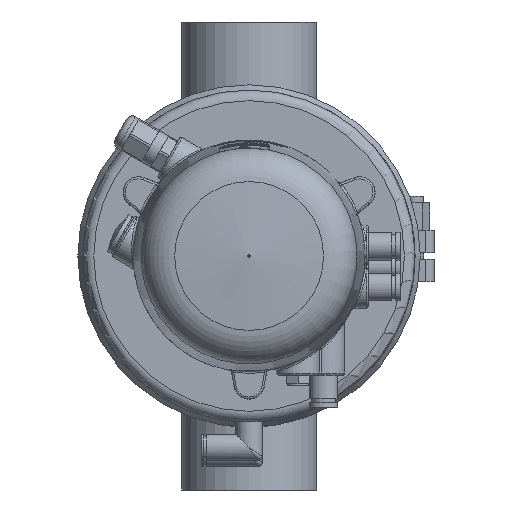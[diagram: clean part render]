
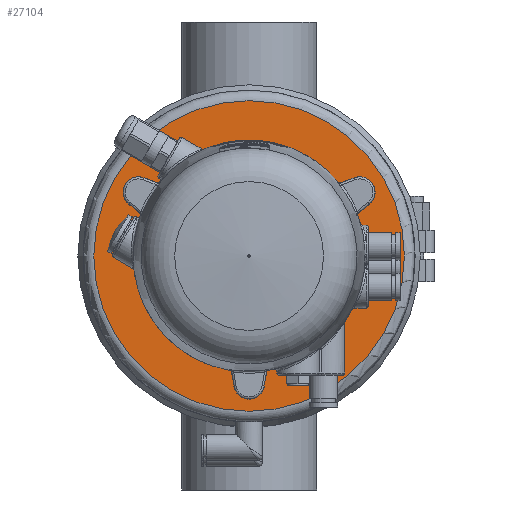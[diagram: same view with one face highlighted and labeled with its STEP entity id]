
A CAD part, front view. The second image highlights one B-rep face of the part: STEP entity #27104.
In plain terms, the highlighted planar face has unit normal (0, -1, 0) as drawn and (0, 1, 0) by its records, which use the part's own axes.
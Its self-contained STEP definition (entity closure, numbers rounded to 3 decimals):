
#265 = ORIENTED_EDGE ( 'NONE', *, *, #59031, .T. ) ;
#289 = AXIS2_PLACEMENT_3D ( 'NONE', #57786, #51874, #37433 ) ;
#2057 = FACE_BOUND ( 'NONE', #38865, .T. ) ;
#2714 = PLANE ( 'NONE',  #7688 ) ;
#3278 = CIRCLE ( 'NONE', #56681, 2.1 ) ;
#4750 = CARTESIAN_POINT ( 'NONE',  ( 0., 263., -10. ) ) ;
#5335 = ORIENTED_EDGE ( 'NONE', *, *, #50618, .F. ) ;
#6606 = EDGE_LOOP ( 'NONE', ( #29589 ) ) ;
#7222 = AXIS2_PLACEMENT_3D ( 'NONE', #9438, #25137, #19565 ) ;
#7688 = AXIS2_PLACEMENT_3D ( 'NONE', #11864, #46620, #16791 ) ;
#9438 = CARTESIAN_POINT ( 'NONE',  ( 0., 263., -17.5 ) ) ;
#9839 = CARTESIAN_POINT ( 'NONE',  ( 0., 263., -73. ) ) ;
#10960 = VERTEX_POINT ( 'NONE', #4750 ) ;
#11654 = VERTEX_POINT ( 'NONE', #22103 ) ;
#11864 = CARTESIAN_POINT ( 'NONE',  ( -78., 263., 0. ) ) ;
#14109 = DIRECTION ( 'NONE',  ( 0., 0., 1. ) ) ;
#16791 = DIRECTION ( 'NONE',  ( 0., 0., -1. ) ) ;
#19565 = DIRECTION ( 'NONE',  ( 0., 0., 1. ) ) ;
#22103 = CARTESIAN_POINT ( 'NONE',  ( 0., 263., -15.4 ) ) ;
#23336 = DIRECTION ( 'NONE',  ( 0., 0., -1. ) ) ;
#25137 = DIRECTION ( 'NONE',  ( 0., 1., 0. ) ) ;
#25807 = EDGE_CURVE ( 'NONE', #44569, #44569, #48373, .T. ) ;
#26201 = EDGE_LOOP ( 'NONE', ( #5335 ) ) ;
#26708 = CARTESIAN_POINT ( 'NONE',  ( 0., 263., 19.6 ) ) ;
#26821 = CIRCLE ( 'NONE', #57296, 10. ) ;
#26993 = EDGE_LOOP ( 'NONE', ( #27683 ) ) ;
#27104 = ADVANCED_FACE ( 'NONE', ( #47244, #32136, #31803, #2057 ), #2714, .F. ) ;
#27683 = ORIENTED_EDGE ( 'NONE', *, *, #25807, .T. ) ;
#28283 = CARTESIAN_POINT ( 'NONE',  ( 0., 263., 0. ) ) ;
#29589 = ORIENTED_EDGE ( 'NONE', *, *, #48353, .F. ) ;
#31803 = FACE_OUTER_BOUND ( 'NONE', #26993, .T. ) ;
#32136 = FACE_BOUND ( 'NONE', #26201, .T. ) ;
#33765 = DIRECTION ( 'NONE',  ( 0., 1., 0. ) ) ;
#37433 = DIRECTION ( 'NONE',  ( 0., 0., -1. ) ) ;
#38865 = EDGE_LOOP ( 'NONE', ( #265 ) ) ;
#44569 = VERTEX_POINT ( 'NONE', #9839 ) ;
#46620 = DIRECTION ( 'NONE',  ( 0., -1., 0. ) ) ;
#47244 = FACE_BOUND ( 'NONE', #6606, .T. ) ;
#47665 = VERTEX_POINT ( 'NONE', #26708 ) ;
#48353 = EDGE_CURVE ( 'NONE', #11654, #11654, #53342, .T. ) ;
#48373 = CIRCLE ( 'NONE', #289, 73. ) ;
#50618 = EDGE_CURVE ( 'NONE', #47665, #47665, #3278, .T. ) ;
#51874 = DIRECTION ( 'NONE',  ( 0., 1., 0. ) ) ;
#53342 = CIRCLE ( 'NONE', #7222, 2.1 ) ;
#56681 = AXIS2_PLACEMENT_3D ( 'NONE', #57099, #33765, #14109 ) ;
#57099 = CARTESIAN_POINT ( 'NONE',  ( 0., 263., 17.5 ) ) ;
#57296 = AXIS2_PLACEMENT_3D ( 'NONE', #28283, #57833, #23336 ) ;
#57786 = CARTESIAN_POINT ( 'NONE',  ( 0., 263., 0. ) ) ;
#57833 = DIRECTION ( 'NONE',  ( 0., -1., 0. ) ) ;
#59031 = EDGE_CURVE ( 'NONE', #10960, #10960, #26821, .T. ) ;
